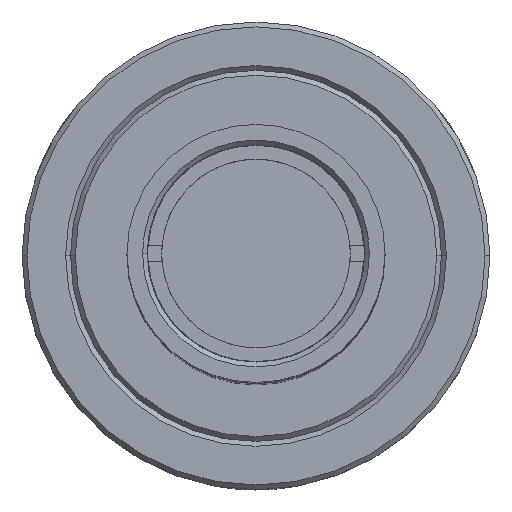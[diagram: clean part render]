
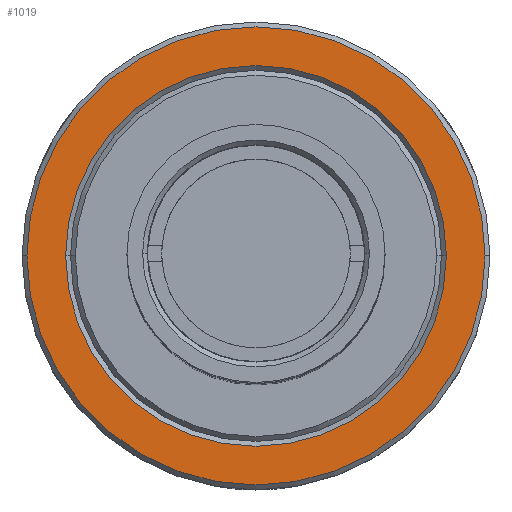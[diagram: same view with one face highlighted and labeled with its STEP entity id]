
A CAD part, top view. The second image highlights one B-rep face of the part: STEP entity #1019.
In plain terms, the highlighted planar face has unit normal (0, 0, 1).
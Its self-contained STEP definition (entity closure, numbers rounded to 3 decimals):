
#402 = VERTEX_POINT ( 'NONE', #5151 ) ;
#411 = VERTEX_POINT ( 'NONE', #3024 ) ;
#437 = EDGE_CURVE ( 'NONE', #402, #443, #3018, .T. ) ;
#442 = EDGE_CURVE ( 'NONE', #448, #411, #3077, .T. ) ;
#443 = VERTEX_POINT ( 'NONE', #3074 ) ;
#448 = VERTEX_POINT ( 'NONE', #3073 ) ;
#980 = EDGE_CURVE ( 'NONE', #443, #402, #2206, .T. ) ;
#995 = EDGE_CURVE ( 'NONE', #411, #448, #2272, .T. ) ;
#1019 = ADVANCED_FACE ( 'NONE', ( #2297, #2269 ), #2280, .F. ) ;
#1020 = EDGE_LOOP ( 'NONE', ( #1158, #1051 ) ) ;
#1051 = ORIENTED_EDGE ( 'NONE', *, *, #980, .T. ) ;
#1077 = ORIENTED_EDGE ( 'NONE', *, *, #442, .T. ) ;
#1104 = EDGE_LOOP ( 'NONE', ( #1145, #1077 ) ) ;
#1145 = ORIENTED_EDGE ( 'NONE', *, *, #995, .T. ) ;
#1158 = ORIENTED_EDGE ( 'NONE', *, *, #437, .T. ) ;
#2178 = CARTESIAN_POINT ( 'NONE',  ( 0., 0., -45.3 ) ) ;
#2206 = CIRCLE ( 'NONE', #2210, 11.8 ) ;
#2208 = DIRECTION ( 'NONE',  ( -1., 0., 0. ) ) ;
#2209 = DIRECTION ( 'NONE',  ( 0., 0., -1. ) ) ;
#2210 = AXIS2_PLACEMENT_3D ( 'NONE', #2178, #2209, #2208 ) ;
#2238 = DIRECTION ( 'NONE',  ( 0., 0., -1. ) ) ;
#2239 = CARTESIAN_POINT ( 'NONE',  ( 0., 11.5, -45.3 ) ) ;
#2257 = DIRECTION ( 'NONE',  ( -1., 0., 0. ) ) ;
#2267 = CARTESIAN_POINT ( 'NONE',  ( 0., 0., -45.3 ) ) ;
#2269 = FACE_OUTER_BOUND ( 'NONE', #1104, .T. ) ;
#2271 = AXIS2_PLACEMENT_3D ( 'NONE', #2239, #2238, #2257 ) ;
#2272 = CIRCLE ( 'NONE', #2273, 14.2 ) ;
#2273 = AXIS2_PLACEMENT_3D ( 'NONE', #2267, #2299, #2298 ) ;
#2280 = PLANE ( 'NONE',  #2271 ) ;
#2297 = FACE_BOUND ( 'NONE', #1020, .T. ) ;
#2298 = DIRECTION ( 'NONE',  ( -1., 0., 0. ) ) ;
#2299 = DIRECTION ( 'NONE',  ( 0., 0., 1. ) ) ;
#3018 = CIRCLE ( 'NONE', #3040, 11.8 ) ;
#3024 = CARTESIAN_POINT ( 'NONE',  ( -14.2, 0., -45.3 ) ) ;
#3036 = CARTESIAN_POINT ( 'NONE',  ( 0., 0., -45.3 ) ) ;
#3040 = AXIS2_PLACEMENT_3D ( 'NONE', #3036, #3053, #3052 ) ;
#3052 = DIRECTION ( 'NONE',  ( -1., 0., 0. ) ) ;
#3053 = DIRECTION ( 'NONE',  ( 0., 0., -1. ) ) ;
#3073 = CARTESIAN_POINT ( 'NONE',  ( 14.2, 0., -45.3 ) ) ;
#3074 = CARTESIAN_POINT ( 'NONE',  ( -11.8, 0., -45.3 ) ) ;
#3077 = CIRCLE ( 'NONE', #3092, 14.2 ) ;
#3088 = CARTESIAN_POINT ( 'NONE',  ( 0., 0., -45.3 ) ) ;
#3090 = DIRECTION ( 'NONE',  ( -1., 0., 0. ) ) ;
#3091 = DIRECTION ( 'NONE',  ( 0., 0., 1. ) ) ;
#3092 = AXIS2_PLACEMENT_3D ( 'NONE', #3088, #3091, #3090 ) ;
#5151 = CARTESIAN_POINT ( 'NONE',  ( 11.8, 0., -45.3 ) ) ;
